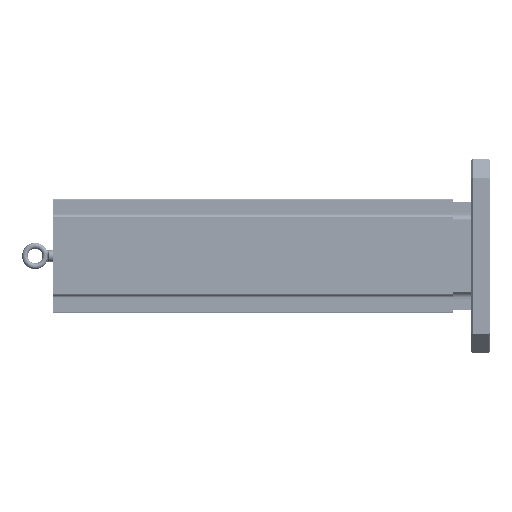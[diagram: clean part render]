
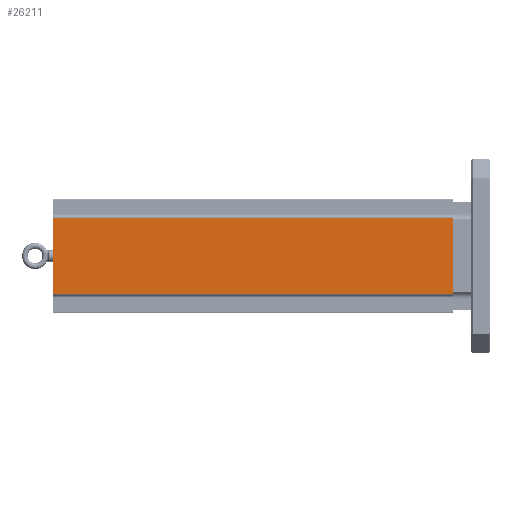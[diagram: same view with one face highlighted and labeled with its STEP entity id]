
A CAD part, left-side view. The second image highlights one B-rep face of the part: STEP entity #26211.
In plain terms, the highlighted planar face has unit normal (-1, 0, 0).
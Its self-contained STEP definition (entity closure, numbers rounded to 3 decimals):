
#123 = DIRECTION ( 'NONE',  ( 0., 0., -1. ) ) ;
#1293 = VERTEX_POINT ( 'NONE', #31620 ) ;
#2932 = AXIS2_PLACEMENT_3D ( 'NONE', #14527, #24790, #30598 ) ;
#4047 = DIRECTION ( 'NONE',  ( 0., -1., 0. ) ) ;
#5687 = EDGE_CURVE ( 'NONE', #9693, #1293, #8050, .T. ) ;
#6088 = LINE ( 'NONE', #29354, #11201 ) ;
#6145 = VECTOR ( 'NONE', #19662, 1000. ) ;
#8050 = LINE ( 'NONE', #28744, #33512 ) ;
#9693 = VERTEX_POINT ( 'NONE', #15137 ) ;
#9876 = LINE ( 'NONE', #25772, #15953 ) ;
#10241 = CARTESIAN_POINT ( 'NONE',  ( -116.992, 862., -78.511 ) ) ;
#10659 = VERTEX_POINT ( 'NONE', #13261 ) ;
#11124 = DIRECTION ( 'NONE',  ( 0., 1., 0. ) ) ;
#11201 = VECTOR ( 'NONE', #4047, 1000. ) ;
#11816 = LINE ( 'NONE', #32674, #6145 ) ;
#13261 = CARTESIAN_POINT ( 'NONE',  ( -116.992, 38.1, -78.511 ) ) ;
#14527 = CARTESIAN_POINT ( 'NONE',  ( -116.992, 862., -79.273 ) ) ;
#14890 = EDGE_CURVE ( 'NONE', #9693, #10659, #9876, .T. ) ;
#15137 = CARTESIAN_POINT ( 'NONE',  ( -116.992, 38.1, 78.511 ) ) ;
#15953 = VECTOR ( 'NONE', #123, 1000. ) ;
#17335 = EDGE_CURVE ( 'NONE', #31990, #1293, #11816, .T. ) ;
#19662 = DIRECTION ( 'NONE',  ( 0., 0., 1. ) ) ;
#23492 = FACE_OUTER_BOUND ( 'NONE', #24153, .T. ) ;
#23632 = ORIENTED_EDGE ( 'NONE', *, *, #17335, .F. ) ;
#24153 = EDGE_LOOP ( 'NONE', ( #30662, #30053, #23632, #26759 ) ) ;
#24790 = DIRECTION ( 'NONE',  ( 1., 0., 0. ) ) ;
#25772 = CARTESIAN_POINT ( 'NONE',  ( -116.992, 38.1, -79.273 ) ) ;
#26211 = ADVANCED_FACE ( 'NONE', ( #23492 ), #27676, .F. ) ;
#26759 = ORIENTED_EDGE ( 'NONE', *, *, #27516, .T. ) ;
#27516 = EDGE_CURVE ( 'NONE', #31990, #10659, #6088, .T. ) ;
#27676 = PLANE ( 'NONE',  #2932 ) ;
#28744 = CARTESIAN_POINT ( 'NONE',  ( -116.992, 862., 78.511 ) ) ;
#29354 = CARTESIAN_POINT ( 'NONE',  ( -116.992, 862., -78.511 ) ) ;
#30053 = ORIENTED_EDGE ( 'NONE', *, *, #5687, .T. ) ;
#30598 = DIRECTION ( 'NONE',  ( 0., 0., -1. ) ) ;
#30662 = ORIENTED_EDGE ( 'NONE', *, *, #14890, .F. ) ;
#31620 = CARTESIAN_POINT ( 'NONE',  ( -116.992, 862., 78.511 ) ) ;
#31990 = VERTEX_POINT ( 'NONE', #10241 ) ;
#32674 = CARTESIAN_POINT ( 'NONE',  ( -116.992, 862., -79.273 ) ) ;
#33512 = VECTOR ( 'NONE', #11124, 1000. ) ;
